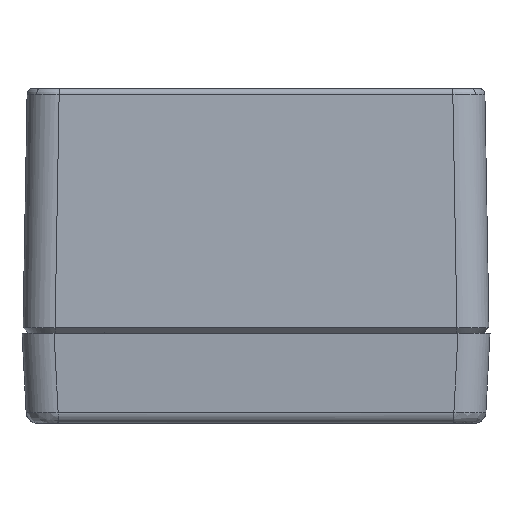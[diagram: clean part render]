
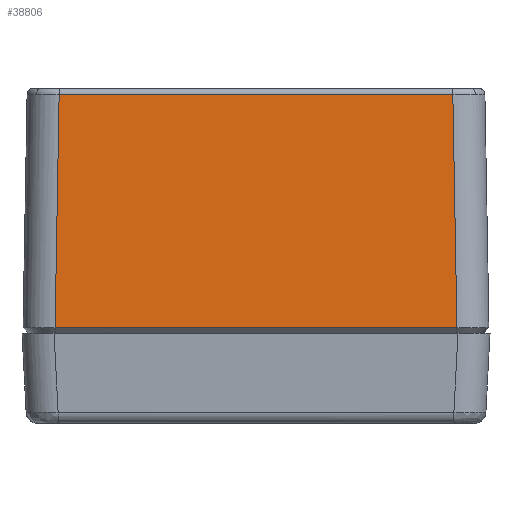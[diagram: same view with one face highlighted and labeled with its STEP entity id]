
A CAD part, left-side view. The second image highlights one B-rep face of the part: STEP entity #38806.
In plain terms, the highlighted planar face has unit normal (-1, 0, 0.018).
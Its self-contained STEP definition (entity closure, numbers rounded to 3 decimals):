
#302 = LINE ( 'NONE', #8559, #38891 ) ;
#430 = PLANE ( 'NONE',  #27995 ) ;
#839 = DIRECTION ( 'NONE',  ( -1., 0., 0.017 ) ) ;
#1174 = EDGE_CURVE ( 'NONE', #37919, #16925, #16075, .T. ) ;
#1312 = VECTOR ( 'NONE', #29032, 1000. ) ;
#1721 = EDGE_CURVE ( 'NONE', #33305, #7212, #302, .T. ) ;
#2354 = LINE ( 'NONE', #15894, #1312 ) ;
#5800 = EDGE_CURVE ( 'NONE', #7212, #37919, #33235, .T. ) ;
#5907 = VECTOR ( 'NONE', #35895, 1000. ) ;
#6163 = ORIENTED_EDGE ( 'NONE', *, *, #1721, .F. ) ;
#7212 = VERTEX_POINT ( 'NONE', #13130 ) ;
#7371 = DIRECTION ( 'NONE',  ( 0.017, 0., 1. ) ) ;
#8559 = CARTESIAN_POINT ( 'NONE',  ( -86.784, -33.768, 41.017 ) ) ;
#13130 = CARTESIAN_POINT ( 'NONE',  ( -86.784, -33.785, 41.017 ) ) ;
#15894 = CARTESIAN_POINT ( 'NONE',  ( -87.477, 34.478, 1.3 ) ) ;
#16075 = LINE ( 'NONE', #39048, #5907 ) ;
#16925 = VERTEX_POINT ( 'NONE', #37053 ) ;
#21204 = EDGE_LOOP ( 'NONE', ( #39756, #6163, #22479, #32508 ) ) ;
#22479 = ORIENTED_EDGE ( 'NONE', *, *, #31287, .F. ) ;
#22830 = DIRECTION ( 'NONE',  ( -0.017, -0.017, -1. ) ) ;
#22962 = CARTESIAN_POINT ( 'NONE',  ( -87.502, -34.503, -0.096 ) ) ;
#23398 = CARTESIAN_POINT ( 'NONE',  ( -87.5, -40., 0. ) ) ;
#27675 = DIRECTION ( 'NONE',  ( 0., -1., 0. ) ) ;
#27995 = AXIS2_PLACEMENT_3D ( 'NONE', #23398, #839, #7371 ) ;
#28177 = VECTOR ( 'NONE', #22830, 1000. ) ;
#29032 = DIRECTION ( 'NONE',  ( 0.017, -0.017, 1. ) ) ;
#31287 = EDGE_CURVE ( 'NONE', #16925, #33305, #2354, .T. ) ;
#32100 = FACE_OUTER_BOUND ( 'NONE', #21204, .T. ) ;
#32508 = ORIENTED_EDGE ( 'NONE', *, *, #1174, .F. ) ;
#33235 = LINE ( 'NONE', #22962, #28177 ) ;
#33305 = VERTEX_POINT ( 'NONE', #37331 ) ;
#35895 = DIRECTION ( 'NONE',  ( 0., 1., 0. ) ) ;
#37053 = CARTESIAN_POINT ( 'NONE',  ( -87.483, 34.484, 0.983 ) ) ;
#37331 = CARTESIAN_POINT ( 'NONE',  ( -86.784, 33.785, 41.017 ) ) ;
#37919 = VERTEX_POINT ( 'NONE', #41485 ) ;
#38806 = ADVANCED_FACE ( 'NONE', ( #32100 ), #430, .T. ) ;
#38891 = VECTOR ( 'NONE', #27675, 1000. ) ;
#39048 = CARTESIAN_POINT ( 'NONE',  ( -87.483, -40., 0.983 ) ) ;
#39756 = ORIENTED_EDGE ( 'NONE', *, *, #5800, .F. ) ;
#41485 = CARTESIAN_POINT ( 'NONE',  ( -87.483, -34.484, 0.983 ) ) ;
